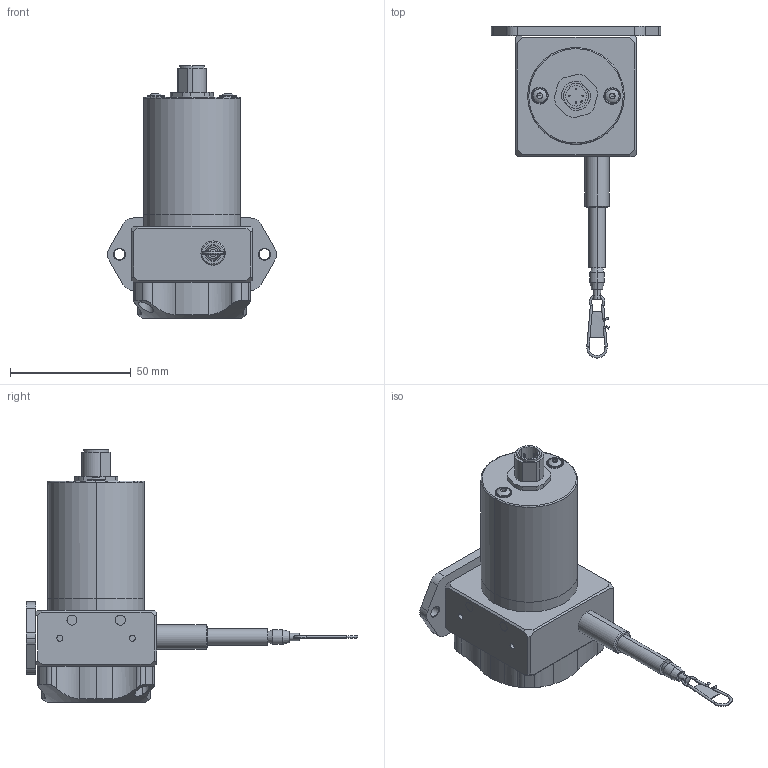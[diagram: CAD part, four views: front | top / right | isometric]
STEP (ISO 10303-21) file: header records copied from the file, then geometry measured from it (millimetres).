
FILE_DESCRIPTION (( 'STEP AP214' ), '1' );
FILE_NAME ('D8.3A1.0050.A333.0000.STEP', '2010-11-24T07:03:03', ( 'admin' ), ( 'Fritz Kübler GmbH' ), 'SwSTEP 2.0', 'SolidWorks 2009', '' );
FILE_SCHEMA (( 'AUTOMOTIVE_DESIGN' ));
Length unit declared in the file: millimetre
Products named in the file (1): D8.3A1.0050.A333.0000
Bounding box: 70 x 137.32 x 104.5 mm (x, y, z)
Surface area: 31587.6 mm2 (no closed solid volume)
Topology: 0 solids, 21 shells, 269 faces, 810 edges, 548 vertices
Faces by surface type: cylinder 108, plane 101, cone 30, torus 21, bspline 6, sphere 3
Entity records: 15244 total; most frequent: CARTESIAN_POINT 5229, DIRECTION 1441, ORIENTED_EDGE 1404, EDGE_CURVE 796, VERTEX_POINT 546, AXIS2_PLACEMENT_3D 533, VECTOR 375, LINE 375
